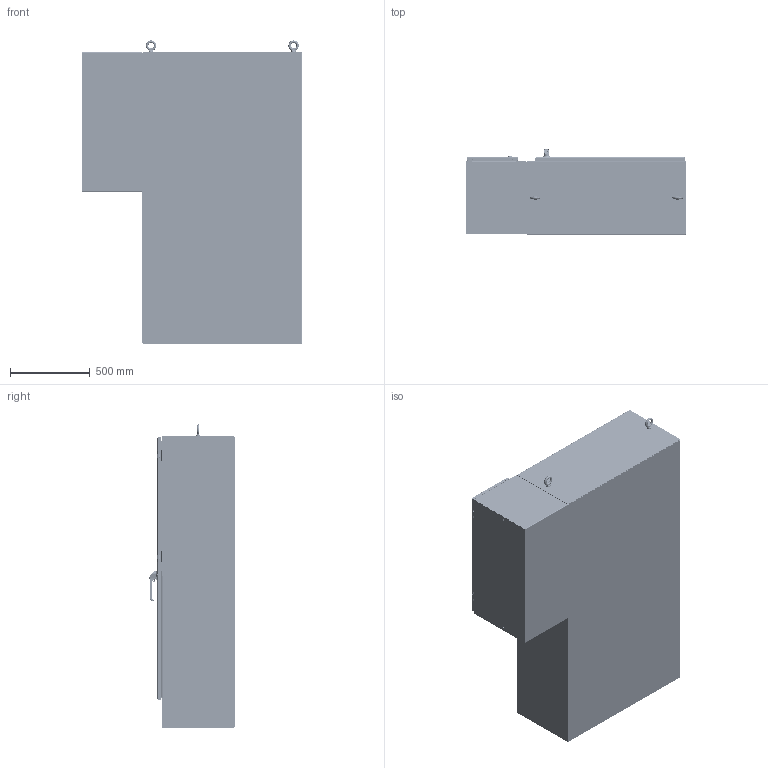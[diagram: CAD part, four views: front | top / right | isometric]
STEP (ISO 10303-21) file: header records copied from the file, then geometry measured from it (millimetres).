
FILE_DESCRIPTION((''),'2;1');
FILE_NAME('MODEL-420_ASM','2021-07-12T16:16:08',('JoshI'),('SAGINAW CONTROL & ENGINEERING'),'CREO PARAMETRIC BY PTC INC, 2017260','CREO PARAMETRIC BY PTC INC, 2017260','');
FILE_SCHEMA(('AUTOMOTIVE_DESIGN { 1 0 10303 214 1 1 1 1 }'));
Length unit declared in the file: inch
Products named in the file (128): MODEL-420-R-SD; MODEL-420-BTM; MODEL-420-TP; MODEL-420-L-SD; MODEL-420-DR; 100837; 111267; 100882; 100956_HANDLE; 100956_HANDLE_INSERT; 100956_SHAFT_CAM; 100956_ADAPTER_CAM; 100956_NUT_CAM; 100956_BASE; 100956_O-RING; 100956_WASHER_SEALING; 100956_NUT_MOUNTING_LARGE; 100956_NUT_MOUNTING_SMALL; 100956_SCREW_SMALL; 100956_PADLOCK_CATCH; 100956_STOP_CAM; 100956_ASM; 102237; 100030; 102237_ASM; MODEL-420-ROD-UPR; 128146; 128145; 128144; 102482; MODEL-420-ROD-UPR_ASM; 128143; 112504; MODEL-420-ROD-LWR; MODEL-420-ROD-LWR_ASM; MODEL-420-PR-GSKT; 128257; 126397; 128257_ASM; 126393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
Assembly tree (269 placements, depth 5):
  MODEL-420_ASM
    MODEL-420-R-SD
    MODEL-420-BTM
    MODEL-420-TP
    MODEL-420-L-SD
    MODEL-420-DOOR-ASSY_ASM
      MODEL-420-DR
      100837  x7
      111267
      100882  x12
      100956_ASM
        100956_HANDLE
        100956_HANDLE_INSERT
        100956_SHAFT_CAM
        100956_ADAPTER_CAM
        100956_NUT_CAM
        100956_BASE
        100956_O-RING
        100956_WASHER_SEALING
        100956_NUT_MOUNTING_LARGE
        100956_NUT_MOUNTING_SMALL
        100956_SCREW_SMALL
        100956_PADLOCK_CATCH
        100956_STOP_CAM
      102237_ASM
        102237
        100030  x2
      MODEL-420-ROD-UPR_ASM
        MODEL-420-ROD-UPR
        128146
        128145
        128144
        102482  x2
      128143  x2
      112504  x2
      MODEL-420-ROD-LWR_ASM
        MODEL-420-ROD-LWR
        128146
        128145
        128144
        102482  x2
      MODEL-420-PR-GSKT
      128257_ASM  x4
        128257
        126397
      126393  x4
      102483  x4
      101369_ASM  x4
        101369
        101369-STUD
      101221  x4
    100837  x4
    101653  x8
    MODEL-420-SUBPNL
    100904  x8
    102238  x2
    MODEL-420-TP-BB
    MODEL-420-BTM-BB
    102254  x2
    MODEL-420-EBS  x2
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Bounding box: 1384.3 x 534.57 x 1903.6 mm (x, y, z)
Volume: 31699334.4 mm3; surface area: 21963250.1 mm2
Topology: 259 solids, 259 shells, 18423 faces, 47400 edges, 29613 vertices
Faces by surface type: plane 6554, cylinder 4555, bspline 4474, torus 1362, cone 936, sphere 406, extrusion 136
Entity records: 364093 total; most frequent: CARTESIAN_POINT 109502, ORIENTED_EDGE 36056, DIRECTION 34568, EDGE_CURVE 18028, PRESENTATION_STYLE_ASSIGNMENT 17857, STYLED_ITEM 17478, CURVE_STYLE 17035, AXIS2_PLACEMENT_3D 12823
